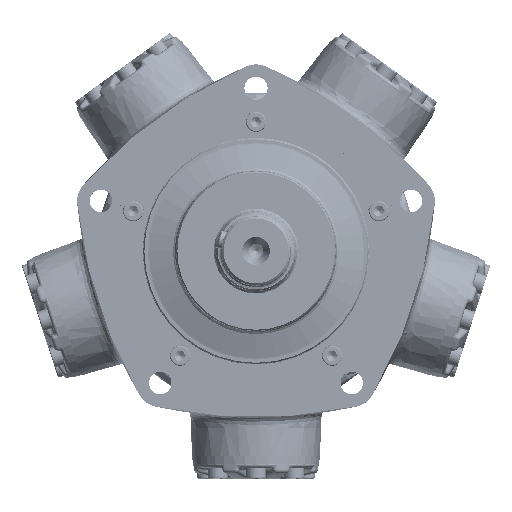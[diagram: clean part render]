
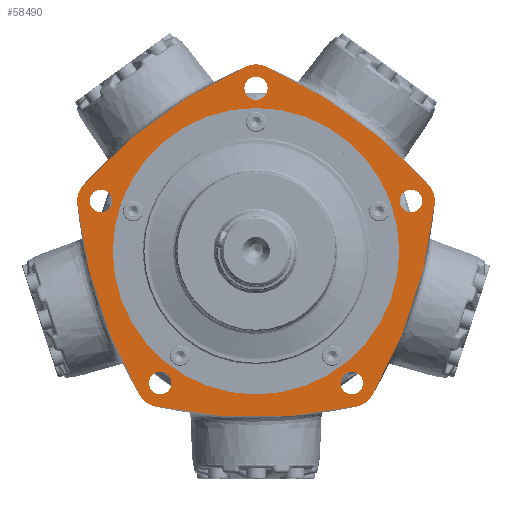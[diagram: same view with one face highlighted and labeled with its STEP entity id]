
A CAD part, top view. The second image highlights one B-rep face of the part: STEP entity #58490.
In plain terms, the highlighted planar face has unit normal (0, 0, 1).
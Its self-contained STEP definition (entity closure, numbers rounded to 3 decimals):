
#47650=CARTESIAN_POINT('',(-7.69,147.477,34.849));
#47651=VERTEX_POINT('',#47650);
#47652=CARTESIAN_POINT('',(7.69,147.477,34.849));
#47653=VERTEX_POINT('',#47652);
#47654=CARTESIAN_POINT('',(0.,130.048,34.849));
#47655=DIRECTION('',(0.0,0.0,-1.0));
#47656=DIRECTION('',(-0.404,-0.915,0.0));
#47657=AXIS2_PLACEMENT_3D('',#47654,#47655,#47656);
#47658=CIRCLE('',#47657,19.05);
#47659=EDGE_CURVE('',#47651,#47653,#47658,.T.);
#47692=CARTESIAN_POINT('',(137.883,52.886,34.849));
#47693=VERTEX_POINT('',#47692);
#47694=CARTESIAN_POINT('',(-146.109,-201.102,34.849));
#47695=DIRECTION('',(0.0,0.0,-1.));
#47696=DIRECTION('',(-0.745,-0.667,0.0));
#47697=AXIS2_PLACEMENT_3D('',#47694,#47695,#47696);
#47698=CIRCLE('',#47697,381.0);
#47699=EDGE_CURVE('',#47653,#47693,#47698,.T.);
#48157=CARTESIAN_POINT('',(142.635,38.259,34.849));
#48158=VERTEX_POINT('',#48157);
#48159=CARTESIAN_POINT('',(123.683,40.187,34.849));
#48160=DIRECTION('',(0.0,0.0,-1.0));
#48161=DIRECTION('',(-0.995,0.101,0.0));
#48162=AXIS2_PLACEMENT_3D('',#48159,#48160,#48161);
#48163=CIRCLE('',#48162,19.05);
#48164=EDGE_CURVE('',#47693,#48158,#48163,.T.);
#48224=CARTESIAN_POINT('',(92.906,-114.791,34.849));
#48225=VERTEX_POINT('',#48224);
#48226=CARTESIAN_POINT('',(-236.409,76.814,34.849));
#48227=DIRECTION('',(0.0,0.0,-1.));
#48228=DIRECTION('',(-0.864,0.503,0.0));
#48229=AXIS2_PLACEMENT_3D('',#48226,#48227,#48228);
#48230=CIRCLE('',#48229,381.0);
#48231=EDGE_CURVE('',#48158,#48225,#48230,.T.);
#48339=CARTESIAN_POINT('',(-137.883,52.886,34.849));
#48340=VERTEX_POINT('',#48339);
#48341=CARTESIAN_POINT('',(146.109,-201.102,34.849));
#48342=DIRECTION('',(0.0,0.0,-1.));
#48343=DIRECTION('',(0.404,-0.915,0.0));
#48344=AXIS2_PLACEMENT_3D('',#48341,#48342,#48343);
#48345=CIRCLE('',#48344,381.);
#48346=EDGE_CURVE('',#48340,#47651,#48345,.T.);
#58270=CARTESIAN_POINT('',(-142.635,38.259,34.849));
#58271=VERTEX_POINT('',#58270);
#58272=CARTESIAN_POINT('',(-123.683,40.187,34.849));
#58273=DIRECTION('',(0.0,0.0,-1.));
#58274=DIRECTION('',(0.745,-0.667,0.0));
#58275=AXIS2_PLACEMENT_3D('',#58272,#58273,#58274);
#58276=CIRCLE('',#58275,19.05);
#58277=EDGE_CURVE('',#58271,#48340,#58276,.T.);
#58295=CARTESIAN_POINT('',(-92.906,-114.791,34.849));
#58296=VERTEX_POINT('',#58295);
#58297=CARTESIAN_POINT('',(236.409,76.814,34.849));
#58298=DIRECTION('',(0.0,0.0,-1.));
#58299=DIRECTION('',(0.995,0.101,0.0));
#58300=AXIS2_PLACEMENT_3D('',#58297,#58298,#58299);
#58301=CIRCLE('',#58300,381.0);
#58302=EDGE_CURVE('',#58296,#58271,#58301,.T.);
#58332=CARTESIAN_POINT('',(-80.463,-123.831,34.849));
#58333=VERTEX_POINT('',#58332);
#58334=CARTESIAN_POINT('',(-76.44,-105.211,34.849));
#58335=DIRECTION('',(0.0,0.0,-1.0));
#58336=DIRECTION('',(0.864,0.503,0.0));
#58337=AXIS2_PLACEMENT_3D('',#58334,#58335,#58336);
#58338=CIRCLE('',#58337,19.05);
#58339=EDGE_CURVE('',#58333,#58296,#58338,.T.);
#58357=CARTESIAN_POINT('',(80.463,-123.831,34.849));
#58358=VERTEX_POINT('',#58357);
#58359=CARTESIAN_POINT('',(0.,248.575,34.849));
#58360=DIRECTION('',(0.0,0.0,-1.));
#58361=DIRECTION('',(0.211,0.977,0.0));
#58362=AXIS2_PLACEMENT_3D('',#58359,#58360,#58361);
#58363=CIRCLE('',#58362,381.);
#58364=EDGE_CURVE('',#58358,#58333,#58363,.T.);
#58394=CARTESIAN_POINT('',(76.44,-105.211,34.849));
#58395=DIRECTION('',(0.0,0.0,-1.));
#58396=DIRECTION('',(-0.211,0.977,0.0));
#58397=AXIS2_PLACEMENT_3D('',#58394,#58395,#58396);
#58398=CIRCLE('',#58397,19.05);
#58399=EDGE_CURVE('',#48225,#58358,#58398,.T.);
#58407=CARTESIAN_POINT('',(0.0,152.897,34.849));
#58408=DIRECTION('',(0.0,0.0,-1.0));
#58409=DIRECTION('',(-1.0,0.0,0.0));
#58410=AXIS2_PLACEMENT_3D('',#58407,#58408,#58409);
#58411=PLANE('',#58410);
#58412=ORIENTED_EDGE('',*,*,#48346,.F.);
#58413=ORIENTED_EDGE('',*,*,#58277,.F.);
#58414=ORIENTED_EDGE('',*,*,#58302,.F.);
#58415=ORIENTED_EDGE('',*,*,#58339,.F.);
#58416=ORIENTED_EDGE('',*,*,#58364,.F.);
#58417=ORIENTED_EDGE('',*,*,#58399,.F.);
#58418=ORIENTED_EDGE('',*,*,#48231,.F.);
#58419=ORIENTED_EDGE('',*,*,#48164,.F.);
#58420=ORIENTED_EDGE('',*,*,#47699,.F.);
#58421=ORIENTED_EDGE('',*,*,#47659,.F.);
#58422=EDGE_LOOP('',(#58412,#58413,#58414,#58415,#58416,#58417,#58418,#58419,#58420,#58421));
#58423=FACE_OUTER_BOUND('',#58422,.T.);
#58424=CARTESIAN_POINT('',(-9.25,130.048,34.849));
#58425=VERTEX_POINT('',#58424);
#58426=CARTESIAN_POINT('',(0.,130.048,34.849));
#58427=DIRECTION('',(0.0,0.0,-1.0));
#58428=DIRECTION('',(1.0,0.0,0.0));
#58429=AXIS2_PLACEMENT_3D('',#58426,#58427,#58428);
#58430=CIRCLE('',#58429,9.25);
#58431=EDGE_CURVE('',#58425,#58425,#58430,.T.);
#58432=ORIENTED_EDGE('',*,*,#58431,.T.);
#58433=EDGE_LOOP('',(#58432));
#58434=FACE_BOUND('',#58433,.T.);
#58435=CARTESIAN_POINT('',(120.902,48.747,34.849));
#58436=VERTEX_POINT('',#58435);
#58437=CARTESIAN_POINT('',(123.683,40.187,34.849));
#58438=DIRECTION('',(0.,0.,-1.));
#58439=DIRECTION('',(0.309,-0.951,0.));
#58440=AXIS2_PLACEMENT_3D('',#58437,#58438,#58439);
#58441=CIRCLE('',#58440,9.);
#58442=EDGE_CURVE('',#58436,#58436,#58441,.T.);
#58443=ORIENTED_EDGE('',*,*,#58442,.T.);
#58444=EDGE_LOOP('',(#58443));
#58445=FACE_BOUND('',#58444,.T.);
#58446=CARTESIAN_POINT('',(83.721,-99.921,34.849));
#58447=VERTEX_POINT('',#58446);
#58448=CARTESIAN_POINT('',(76.44,-105.211,34.849));
#58449=DIRECTION('',(0.,0.,-1.0));
#58450=DIRECTION('',(-0.809,-0.588,0.));
#58451=AXIS2_PLACEMENT_3D('',#58448,#58449,#58450);
#58452=CIRCLE('',#58451,9.);
#58453=EDGE_CURVE('',#58447,#58447,#58452,.T.);
#58454=ORIENTED_EDGE('',*,*,#58453,.T.);
#58455=EDGE_LOOP('',(#58454));
#58456=FACE_BOUND('',#58455,.T.);
#58457=CARTESIAN_POINT('',(-69.159,-110.501,34.849));
#58458=VERTEX_POINT('',#58457);
#58459=CARTESIAN_POINT('',(-76.44,-105.211,34.849));
#58460=DIRECTION('',(0.,0.,-1.0));
#58461=DIRECTION('',(-0.809,0.588,0.));
#58462=AXIS2_PLACEMENT_3D('',#58459,#58460,#58461);
#58463=CIRCLE('',#58462,9.);
#58464=EDGE_CURVE('',#58458,#58458,#58463,.T.);
#58465=ORIENTED_EDGE('',*,*,#58464,.T.);
#58466=EDGE_LOOP('',(#58465));
#58467=FACE_BOUND('',#58466,.T.);
#58468=CARTESIAN_POINT('',(-126.464,31.628,34.849));
#58469=VERTEX_POINT('',#58468);
#58470=CARTESIAN_POINT('',(-123.683,40.187,34.849));
#58471=DIRECTION('',(0.,0.,-1.0));
#58472=DIRECTION('',(0.309,0.951,0.));
#58473=AXIS2_PLACEMENT_3D('',#58470,#58471,#58472);
#58474=CIRCLE('',#58473,9.);
#58475=EDGE_CURVE('',#58469,#58469,#58474,.T.);
#58476=ORIENTED_EDGE('',*,*,#58475,.T.);
#58477=EDGE_LOOP('',(#58476));
#58478=FACE_BOUND('',#58477,.T.);
#58479=CARTESIAN_POINT('',(114.319,0.,34.849));
#58480=VERTEX_POINT('',#58479);
#58481=CARTESIAN_POINT('',(0.0,0.,34.849));
#58482=DIRECTION('',(0.0,0.0,-1.0));
#58483=DIRECTION('',(-1.0,0.0,0.0));
#58484=AXIS2_PLACEMENT_3D('',#58481,#58482,#58483);
#58485=CIRCLE('',#58484,114.319);
#58486=EDGE_CURVE('',#58480,#58480,#58485,.T.);
#58487=ORIENTED_EDGE('',*,*,#58486,.T.);
#58488=EDGE_LOOP('',(#58487));
#58489=FACE_BOUND('',#58488,.T.);
#58490=ADVANCED_FACE('',(#58423,#58434,#58445,#58456,#58467,#58478,#58489),#58411,.F.);
